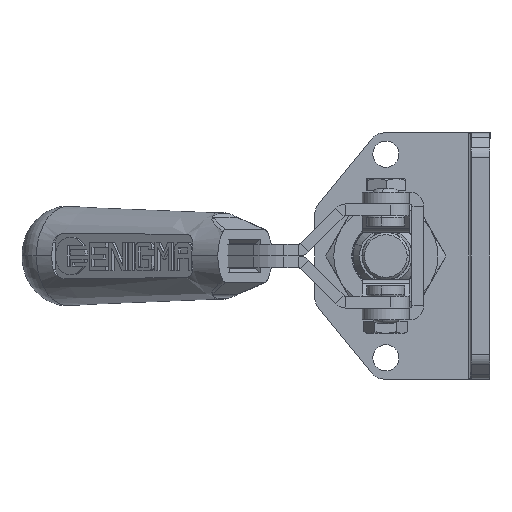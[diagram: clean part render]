
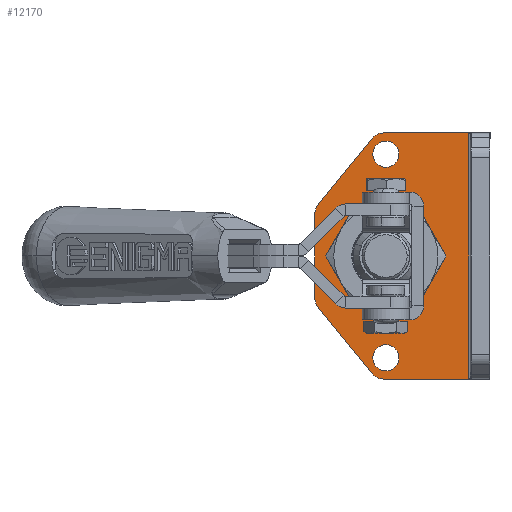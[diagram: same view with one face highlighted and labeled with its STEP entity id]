
A CAD part, left-side view. The second image highlights one B-rep face of the part: STEP entity #12170.
In plain terms, the highlighted planar face has unit normal (-1, 0, 0) as drawn and (1, 0, 0) by its records, which use the part's own axes.
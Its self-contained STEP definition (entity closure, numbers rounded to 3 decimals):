
#507 = AXIS2_PLACEMENT_3D ( 'NONE', #33626, #1281, #9290 ) ;
#627 = CARTESIAN_POINT ( 'NONE',  ( 20.93, 18.003, -21.5 ) ) ;
#689 = CARTESIAN_POINT ( 'NONE',  ( 20.93, 0.5, 26. ) ) ;
#1197 = VECTOR ( 'NONE', #34327, 1000. ) ;
#1281 = DIRECTION ( 'NONE',  ( 1., 0., 0. ) ) ;
#1758 = CARTESIAN_POINT ( 'NONE',  ( 20.93, 30.003, -8.935 ) ) ;
#1929 = DIRECTION ( 'NONE',  ( 1., 0., 0. ) ) ;
#2324 = LINE ( 'NONE', #21347, #30420 ) ;
#2363 = ORIENTED_EDGE ( 'NONE', *, *, #3778, .T. ) ;
#2825 = FACE_BOUND ( 'NONE', #5428, .T. ) ;
#2934 = AXIS2_PLACEMENT_3D ( 'NONE', #27998, #12353, #33326 ) ;
#3166 = DIRECTION ( 'NONE',  ( 0., 0., -1. ) ) ;
#3232 = DIRECTION ( 'NONE',  ( 0., -1., 0. ) ) ;
#3256 = EDGE_CURVE ( 'NONE', #10278, #30955, #26881, .T. ) ;
#3778 = EDGE_CURVE ( 'NONE', #31352, #27511, #25216, .T. ) ;
#4056 = CARTESIAN_POINT ( 'NONE',  ( 20.93, 20.003, 26. ) ) ;
#4112 = VERTEX_POINT ( 'NONE', #9706 ) ;
#4547 = AXIS2_PLACEMENT_3D ( 'NONE', #21906, #16747, #3232 ) ;
#4549 = CARTESIAN_POINT ( 'NONE',  ( 20.93, 18.575, -26. ) ) ;
#4630 = DIRECTION ( 'NONE',  ( 0., 0., 1. ) ) ;
#4655 = AXIS2_PLACEMENT_3D ( 'NONE', #11524, #16685, #3166 ) ;
#4860 = ORIENTED_EDGE ( 'NONE', *, *, #20965, .T. ) ;
#5092 = ORIENTED_EDGE ( 'NONE', *, *, #22389, .T. ) ;
#5236 = EDGE_CURVE ( 'NONE', #28081, #4112, #25542, .T. ) ;
#5320 = AXIS2_PLACEMENT_3D ( 'NONE', #627, #30327, #14312 ) ;
#5428 = EDGE_LOOP ( 'NONE', ( #16849, #31185 ) ) ;
#5534 = AXIS2_PLACEMENT_3D ( 'NONE', #17624, #34490, #7309 ) ;
#5656 = AXIS2_PLACEMENT_3D ( 'NONE', #24414, #24575, #13372 ) ;
#5841 = FACE_BOUND ( 'NONE', #30969, .T. ) ;
#5958 = DIRECTION ( 'NONE',  ( 0., 1., 0. ) ) ;
#6455 = VERTEX_POINT ( 'NONE', #21518 ) ;
#6533 = VERTEX_POINT ( 'NONE', #689 ) ;
#7277 = EDGE_CURVE ( 'NONE', #16644, #6455, #15263, .T. ) ;
#7278 = DIRECTION ( 'NONE',  ( 0., -1., 0. ) ) ;
#7309 = DIRECTION ( 'NONE',  ( 0., -1., 0. ) ) ;
#7637 = LINE ( 'NONE', #15976, #13906 ) ;
#8146 = VERTEX_POINT ( 'NONE', #34191 ) ;
#8303 = EDGE_CURVE ( 'NONE', #4112, #31352, #10759, .T. ) ;
#8592 = CARTESIAN_POINT ( 'NONE',  ( 20.93, 18.003, -24.25 ) ) ;
#8838 = VERTEX_POINT ( 'NONE', #4549 ) ;
#9290 = DIRECTION ( 'NONE',  ( 0., 0., 1. ) ) ;
#9558 = ORIENTED_EDGE ( 'NONE', *, *, #20393, .F. ) ;
#9643 = CARTESIAN_POINT ( 'NONE',  ( 20.93, 18.003, 21.5 ) ) ;
#9706 = CARTESIAN_POINT ( 'NONE',  ( 20.93, 33.003, 8.935 ) ) ;
#10200 = CARTESIAN_POINT ( 'NONE',  ( 20.93, 32.331, 10.827 ) ) ;
#10278 = VERTEX_POINT ( 'NONE', #8592 ) ;
#10457 = EDGE_CURVE ( 'NONE', #8146, #6533, #31485, .T. ) ;
#10759 = CIRCLE ( 'NONE', #5656, 3. ) ;
#10775 = CARTESIAN_POINT ( 'NONE',  ( 20.93, 18.003, 0. ) ) ;
#10872 = CARTESIAN_POINT ( 'NONE',  ( 20.93, 18.003, 21.5 ) ) ;
#11407 = EDGE_CURVE ( 'NONE', #30955, #10278, #32445, .T. ) ;
#11524 = CARTESIAN_POINT ( 'NONE',  ( 20.93, 18.003, 0. ) ) ;
#11758 = CARTESIAN_POINT ( 'NONE',  ( 20.93, 20.903, 24.892 ) ) ;
#12038 = ORIENTED_EDGE ( 'NONE', *, *, #17792, .T. ) ;
#12060 = DIRECTION ( 'NONE',  ( 0., -0.631, 0.776 ) ) ;
#12170 = ADVANCED_FACE ( 'NONE', ( #30190, #5841, #2825, #14185 ), #25209, .F. ) ;
#12303 = ORIENTED_EDGE ( 'NONE', *, *, #7277, .F. ) ;
#12353 = DIRECTION ( 'NONE',  ( 1., 0., 0. ) ) ;
#13372 = DIRECTION ( 'NONE',  ( 0., -1., 0. ) ) ;
#13447 = ORIENTED_EDGE ( 'NONE', *, *, #31711, .F. ) ;
#13785 = EDGE_CURVE ( 'NONE', #6455, #16644, #17851, .T. ) ;
#13906 = VECTOR ( 'NONE', #26295, 1000. ) ;
#13987 = ORIENTED_EDGE ( 'NONE', *, *, #8303, .T. ) ;
#14185 = FACE_BOUND ( 'NONE', #16108, .T. ) ;
#14312 = DIRECTION ( 'NONE',  ( 0., 0., 1. ) ) ;
#14499 = DIRECTION ( 'NONE',  ( 0., 0., 1. ) ) ;
#14725 = VECTOR ( 'NONE', #14499, 1000. ) ;
#14906 = CARTESIAN_POINT ( 'NONE',  ( 20.93, 33.003, -8.935 ) ) ;
#15050 = EDGE_CURVE ( 'NONE', #33165, #6533, #7637, .T. ) ;
#15263 = CIRCLE ( 'NONE', #507, 10.1 ) ;
#15293 = ORIENTED_EDGE ( 'NONE', *, *, #5236, .T. ) ;
#15385 = CARTESIAN_POINT ( 'NONE',  ( 20.93, 18.003, -18.75 ) ) ;
#15433 = VERTEX_POINT ( 'NONE', #16065 ) ;
#15976 = CARTESIAN_POINT ( 'NONE',  ( 20.93, 0.5, 0. ) ) ;
#16065 = CARTESIAN_POINT ( 'NONE',  ( 20.93, 32.331, -10.827 ) ) ;
#16108 = EDGE_LOOP ( 'NONE', ( #26961, #12303 ) ) ;
#16463 = DIRECTION ( 'NONE',  ( 1., 0., 0. ) ) ;
#16644 = VERTEX_POINT ( 'NONE', #23045 ) ;
#16685 = DIRECTION ( 'NONE',  ( -1., 0., 0. ) ) ;
#16747 = DIRECTION ( 'NONE',  ( 1., 0., 0. ) ) ;
#16849 = ORIENTED_EDGE ( 'NONE', *, *, #11407, .F. ) ;
#17600 = CARTESIAN_POINT ( 'NONE',  ( 20.93, 0.5, -26. ) ) ;
#17624 = CARTESIAN_POINT ( 'NONE',  ( 20.93, 18.575, -23. ) ) ;
#17792 = EDGE_CURVE ( 'NONE', #33165, #8838, #33321, .T. ) ;
#17851 = CIRCLE ( 'NONE', #28630, 10.1 ) ;
#17876 = CARTESIAN_POINT ( 'NONE',  ( 20.93, 18.003, 24.25 ) ) ;
#18067 = VECTOR ( 'NONE', #12060, 1000. ) ;
#18177 = CIRCLE ( 'NONE', #4547, 3. ) ;
#18317 = DIRECTION ( 'NONE',  ( 1., 0., 0. ) ) ;
#18848 = DIRECTION ( 'NONE',  ( 0., 0.631, 0.776 ) ) ;
#18919 = CIRCLE ( 'NONE', #29142, 3. ) ;
#19054 = DIRECTION ( 'NONE',  ( 0., 0., 1. ) ) ;
#19187 = ORIENTED_EDGE ( 'NONE', *, *, #32085, .T. ) ;
#19961 = VERTEX_POINT ( 'NONE', #21244 ) ;
#19974 = ORIENTED_EDGE ( 'NONE', *, *, #10457, .T. ) ;
#20393 = EDGE_CURVE ( 'NONE', #19961, #26752, #29936, .T. ) ;
#20870 = CIRCLE ( 'NONE', #5534, 3. ) ;
#20965 = EDGE_CURVE ( 'NONE', #8838, #34839, #20870, .T. ) ;
#21244 = CARTESIAN_POINT ( 'NONE',  ( 20.93, 18.003, 18.75 ) ) ;
#21347 = CARTESIAN_POINT ( 'NONE',  ( 20.93, 33.003, -10. ) ) ;
#21518 = CARTESIAN_POINT ( 'NONE',  ( 20.93, 18.003, 10.1 ) ) ;
#21906 = CARTESIAN_POINT ( 'NONE',  ( 20.93, 18.575, 23. ) ) ;
#22389 = EDGE_CURVE ( 'NONE', #27511, #8146, #18177, .T. ) ;
#22779 = EDGE_CURVE ( 'NONE', #34839, #15433, #2324, .T. ) ;
#22807 = CARTESIAN_POINT ( 'NONE',  ( 20.93, -21.997, 26. ) ) ;
#23045 = CARTESIAN_POINT ( 'NONE',  ( 20.93, 18.003, -10.1 ) ) ;
#23138 = AXIS2_PLACEMENT_3D ( 'NONE', #10872, #26703, #19054 ) ;
#24414 = CARTESIAN_POINT ( 'NONE',  ( 20.93, 30.003, 8.935 ) ) ;
#24575 = DIRECTION ( 'NONE',  ( 1., 0., 0. ) ) ;
#25209 = PLANE ( 'NONE',  #4655 ) ;
#25216 = LINE ( 'NONE', #4056, #18067 ) ;
#25542 = LINE ( 'NONE', #30684, #14725 ) ;
#26295 = DIRECTION ( 'NONE',  ( 0., 0., 1. ) ) ;
#26703 = DIRECTION ( 'NONE',  ( 1., 0., 0. ) ) ;
#26752 = VERTEX_POINT ( 'NONE', #17876 ) ;
#26859 = CIRCLE ( 'NONE', #29692, 2.75 ) ;
#26881 = CIRCLE ( 'NONE', #5320, 2.75 ) ;
#26961 = ORIENTED_EDGE ( 'NONE', *, *, #13785, .F. ) ;
#26978 = ORIENTED_EDGE ( 'NONE', *, *, #22779, .T. ) ;
#27511 = VERTEX_POINT ( 'NONE', #11758 ) ;
#27998 = CARTESIAN_POINT ( 'NONE',  ( 20.93, 18.003, -21.5 ) ) ;
#28081 = VERTEX_POINT ( 'NONE', #14906 ) ;
#28630 = AXIS2_PLACEMENT_3D ( 'NONE', #10775, #16463, #32286 ) ;
#29142 = AXIS2_PLACEMENT_3D ( 'NONE', #1758, #1929, #7278 ) ;
#29259 = VECTOR ( 'NONE', #5958, 1000. ) ;
#29692 = AXIS2_PLACEMENT_3D ( 'NONE', #9643, #18317, #4630 ) ;
#29936 = CIRCLE ( 'NONE', #23138, 2.75 ) ;
#30190 = FACE_OUTER_BOUND ( 'NONE', #34159, .T. ) ;
#30316 = CARTESIAN_POINT ( 'NONE',  ( 20.93, 20.003, -26. ) ) ;
#30327 = DIRECTION ( 'NONE',  ( 1., 0., 0. ) ) ;
#30420 = VECTOR ( 'NONE', #18848, 1000. ) ;
#30427 = ORIENTED_EDGE ( 'NONE', *, *, #15050, .F. ) ;
#30684 = CARTESIAN_POINT ( 'NONE',  ( 20.93, 33.003, 10. ) ) ;
#30955 = VERTEX_POINT ( 'NONE', #15385 ) ;
#30969 = EDGE_LOOP ( 'NONE', ( #13447, #9558 ) ) ;
#31185 = ORIENTED_EDGE ( 'NONE', *, *, #3256, .F. ) ;
#31352 = VERTEX_POINT ( 'NONE', #10200 ) ;
#31485 = LINE ( 'NONE', #22807, #1197 ) ;
#31711 = EDGE_CURVE ( 'NONE', #26752, #19961, #26859, .T. ) ;
#32085 = EDGE_CURVE ( 'NONE', #15433, #28081, #18919, .T. ) ;
#32286 = DIRECTION ( 'NONE',  ( 0., 0., 1. ) ) ;
#32445 = CIRCLE ( 'NONE', #2934, 2.75 ) ;
#32454 = CARTESIAN_POINT ( 'NONE',  ( 20.93, 20.903, -24.892 ) ) ;
#33165 = VERTEX_POINT ( 'NONE', #17600 ) ;
#33321 = LINE ( 'NONE', #30316, #29259 ) ;
#33326 = DIRECTION ( 'NONE',  ( 0., 0., 1. ) ) ;
#33626 = CARTESIAN_POINT ( 'NONE',  ( 20.93, 18.003, 0. ) ) ;
#34159 = EDGE_LOOP ( 'NONE', ( #12038, #4860, #26978, #19187, #15293, #13987, #2363, #5092, #19974, #30427 ) ) ;
#34191 = CARTESIAN_POINT ( 'NONE',  ( 20.93, 18.575, 26. ) ) ;
#34327 = DIRECTION ( 'NONE',  ( 0., -1., 0. ) ) ;
#34490 = DIRECTION ( 'NONE',  ( 1., 0., 0. ) ) ;
#34839 = VERTEX_POINT ( 'NONE', #32454 ) ;
